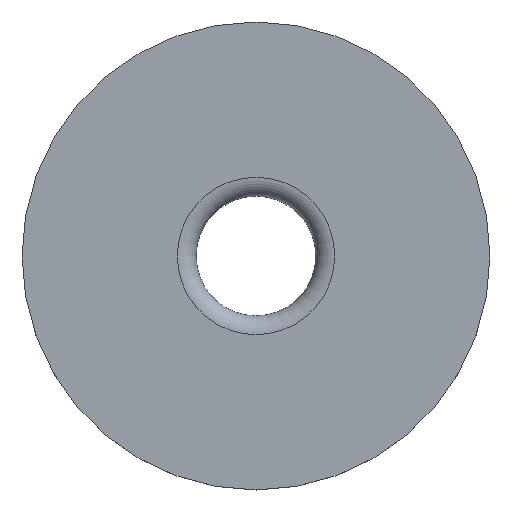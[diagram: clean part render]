
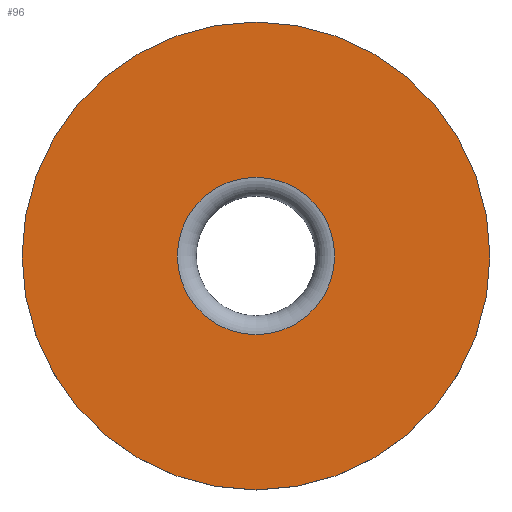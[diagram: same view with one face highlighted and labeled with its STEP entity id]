
A CAD part, top view. The second image highlights one B-rep face of the part: STEP entity #96.
In plain terms, the highlighted planar face has unit normal (0, 0, 1).
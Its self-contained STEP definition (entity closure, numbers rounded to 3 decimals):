
#55 = VERTEX_POINT('',#56);
#56 = CARTESIAN_POINT('',(4.162,0.,2.306));
#65 = EDGE_CURVE('',#55,#55,#66,.T.);
#66 = CIRCLE('',#67,4.162);
#67 = AXIS2_PLACEMENT_3D('',#68,#69,#70);
#68 = CARTESIAN_POINT('',(0.,0.,2.306));
#69 = DIRECTION('',(0.,0.,-1.));
#70 = DIRECTION('',(1.,0.,0.));
#96 = ADVANCED_FACE('',(#97,#100),#111,.F.);
#97 = FACE_BOUND('',#98,.T.);
#98 = EDGE_LOOP('',(#99));
#99 = ORIENTED_EDGE('',*,*,#65,.T.);
#100 = FACE_BOUND('',#101,.T.);
#101 = EDGE_LOOP('',(#102));
#102 = ORIENTED_EDGE('',*,*,#103,.F.);
#103 = EDGE_CURVE('',#104,#104,#106,.T.);
#104 = VERTEX_POINT('',#105);
#105 = CARTESIAN_POINT('',(12.375,0.,2.306));
#106 = CIRCLE('',#107,12.375);
#107 = AXIS2_PLACEMENT_3D('',#108,#109,#110);
#108 = CARTESIAN_POINT('',(0.,0.,2.306));
#109 = DIRECTION('',(0.,0.,-1.));
#110 = DIRECTION('',(1.,0.,0.));
#111 = PLANE('',#112);
#112 = AXIS2_PLACEMENT_3D('',#113,#114,#115);
#113 = CARTESIAN_POINT('',(0.,0.,2.306));
#114 = DIRECTION('',(0.,0.,-1.));
#115 = DIRECTION('',(1.,0.,0.));
